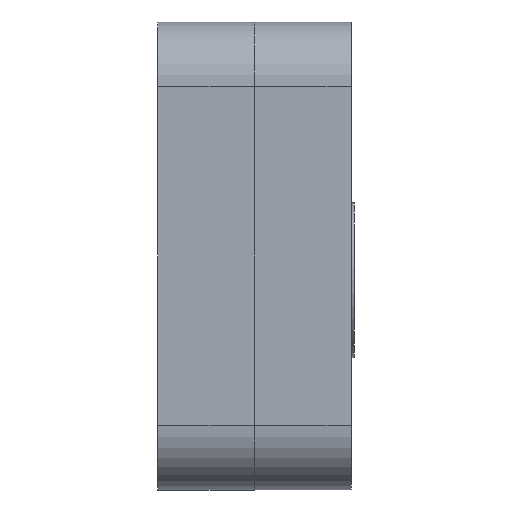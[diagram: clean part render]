
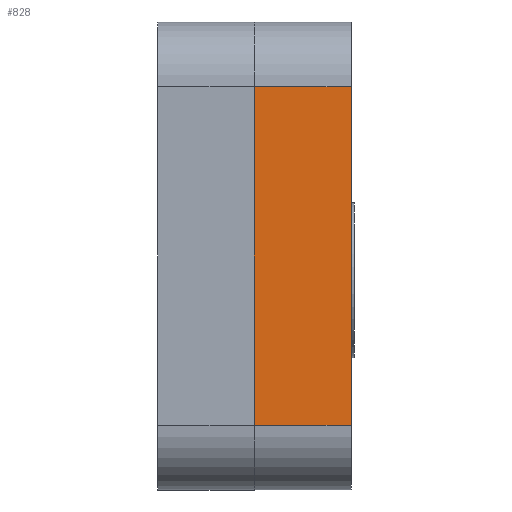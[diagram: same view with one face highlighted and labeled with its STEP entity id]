
A CAD part, left-side view. The second image highlights one B-rep face of the part: STEP entity #828.
In plain terms, the highlighted planar face has unit normal (-1, 0, 0) as drawn and (1, 0, 0) by its records, which use the part's own axes.
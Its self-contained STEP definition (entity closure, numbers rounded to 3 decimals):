
#89 = EDGE_CURVE ( 'NONE', #704, #204, #266, .T. ) ;
#109 = CARTESIAN_POINT ( 'NONE',  ( 7., 5.25, 3. ) ) ;
#204 = VERTEX_POINT ( 'NONE', #2841 ) ;
#266 = LINE ( 'NONE', #712, #5331 ) ;
#666 = ORIENTED_EDGE ( 'NONE', *, *, #2835, .F. ) ;
#704 = VERTEX_POINT ( 'NONE', #3825 ) ;
#712 = CARTESIAN_POINT ( 'NONE',  ( 7., -7.25, 0. ) ) ;
#828 = ADVANCED_FACE ( 'NONE', ( #2080 ), #1720, .F. ) ;
#1102 = DIRECTION ( 'NONE',  ( 0., 0., 1. ) ) ;
#1225 = DIRECTION ( 'NONE',  ( 0., 0., -1. ) ) ;
#1236 = LINE ( 'NONE', #4500, #6055 ) ;
#1267 = DIRECTION ( 'NONE',  ( 0., 1., 0. ) ) ;
#1333 = VECTOR ( 'NONE', #1102, 1000. ) ;
#1720 = PLANE ( 'NONE',  #4172 ) ;
#1921 = ORIENTED_EDGE ( 'NONE', *, *, #2466, .T. ) ;
#2080 = FACE_OUTER_BOUND ( 'NONE', #5472, .T. ) ;
#2145 = CARTESIAN_POINT ( 'NONE',  ( 7., -7.25, 3. ) ) ;
#2238 = ORIENTED_EDGE ( 'NONE', *, *, #89, .T. ) ;
#2406 = VERTEX_POINT ( 'NONE', #2483 ) ;
#2466 = EDGE_CURVE ( 'NONE', #204, #2406, #2951, .T. ) ;
#2483 = CARTESIAN_POINT ( 'NONE',  ( 7., 5.25, 3. ) ) ;
#2546 = DIRECTION ( 'NONE',  ( 0., -1., 0. ) ) ;
#2588 = DIRECTION ( 'NONE',  ( 0., 1., 0. ) ) ;
#2835 = EDGE_CURVE ( 'NONE', #4880, #2406, #1236, .T. ) ;
#2841 = CARTESIAN_POINT ( 'NONE',  ( 7., 5.25, 0. ) ) ;
#2951 = LINE ( 'NONE', #109, #1333 ) ;
#3761 = VECTOR ( 'NONE', #1225, 1000. ) ;
#3825 = CARTESIAN_POINT ( 'NONE',  ( 7., -5.25, 0. ) ) ;
#4172 = AXIS2_PLACEMENT_3D ( 'NONE', #2145, #5947, #2546 ) ;
#4491 = CARTESIAN_POINT ( 'NONE',  ( 7., -5.25, 3. ) ) ;
#4500 = CARTESIAN_POINT ( 'NONE',  ( 7., -7.25, 3. ) ) ;
#4880 = VERTEX_POINT ( 'NONE', #4881 ) ;
#4881 = CARTESIAN_POINT ( 'NONE',  ( 7., -5.25, 3. ) ) ;
#5331 = VECTOR ( 'NONE', #2588, 1000. ) ;
#5472 = EDGE_LOOP ( 'NONE', ( #666, #5595, #2238, #1921 ) ) ;
#5595 = ORIENTED_EDGE ( 'NONE', *, *, #5599, .T. ) ;
#5599 = EDGE_CURVE ( 'NONE', #4880, #704, #6020, .T. ) ;
#5947 = DIRECTION ( 'NONE',  ( -1., 0., 0. ) ) ;
#6020 = LINE ( 'NONE', #4491, #3761 ) ;
#6055 = VECTOR ( 'NONE', #1267, 1000. ) ;
